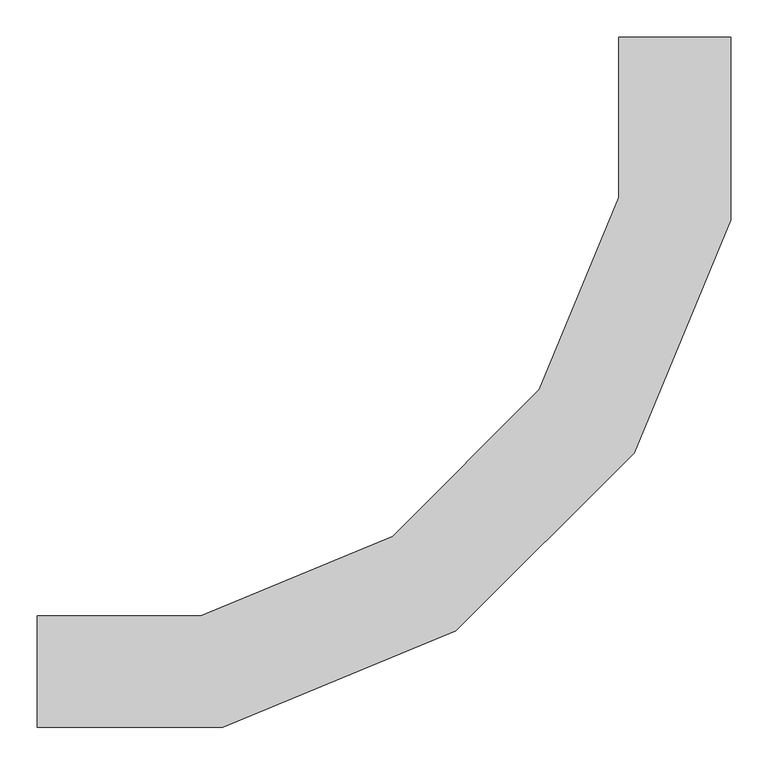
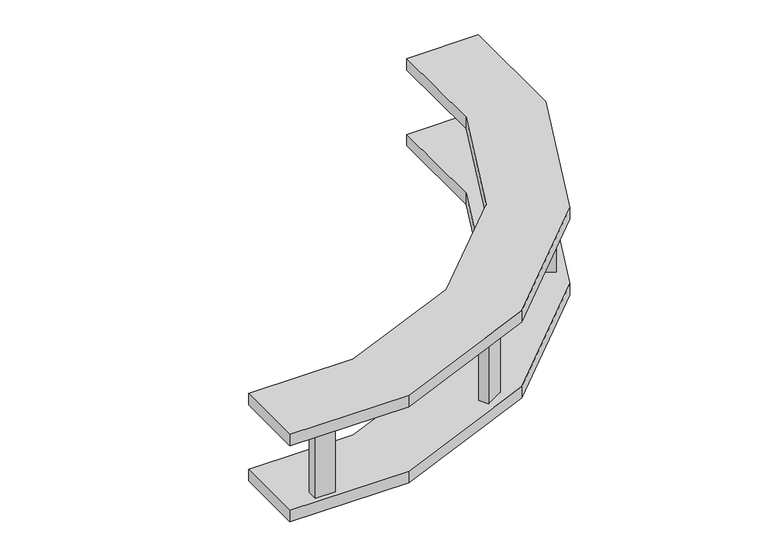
"""IFC4 building model written with IfcOpenShell, lengths in millimetres: cable carrier fitting geometry, Legrand_CableLadder_Swifts_Emerald_OutsideRiser-13 : Hot Dip Galvanised (after manufacture)."""

from ifc_helpers import new_model, si_unit, frame, origin, place, context, project, spatial, polyline, outline, extrude, source, transform, mapped, element, save


def cable_carrier_fitting_db6fad4b(model_context):
    return source(origin(), model_context, "Body", "SweptSolid", [
        extrude(outline(polyline([(-383.9365335, 55.2921816), (-347.5634665, 76.2921816), (-337.0634665, 58.1056481), (-373.4365335, 37.1056481), (-383.9365335, 55.2921816)])), frame((0.0, 0.0, -71.5), z_axis=(0.0, 0.0, 1.0), x_axis=(1.0, 0.0, 0.0)), (0.0, 0.0, 1.0), 143.0),
        extrude(outline(polyline([(-76.2921816, 347.5634665), (-55.2921816, 383.9365335), (-37.1056481, 373.4365335), (-58.1056481, 337.0634665), (-76.2921816, 347.5634665)])), frame((0.0, 0.0, -71.5), z_axis=(0.0, 0.0, 1.0), x_axis=(1.0, 0.0, 0.0)), (0.0, 0.0, 1.0), 143.0),
        extrude(outline(polyline([(-796.5, -44.0), (-754.5, -44.0), (-754.5, -65.0), (-796.5, -65.0), (-796.5, -44.0)])), frame((0.0, 0.0, -71.5), z_axis=(0.0, 0.0, 1.0), x_axis=(1.0, 0.0, 0.0)), (0.0, 0.0, 1.0), 143.0),
        extrude(outline(polyline([(44.0, 754.5), (44.0, 796.5), (65.0, 796.5), (65.0, 754.5), (44.0, 754.5)])), frame((0.0, 0.0, -71.5), z_axis=(0.0, 0.0, 1.0), x_axis=(1.0, 0.0, 0.0)), (0.0, 0.0, 1.0), 143.0),
        extrude(outline(polyline([(-606.3250315, -75.0), (-855.5, -75.0), (-855.5, 75.0), (-636.1618867, 75.0), (-378.6986246, 181.644775), (-181.644775, 378.6986246), (-75.0, 636.1618867), (-75.0, 851.7), (75.0, 851.7), (75.0, 606.3250315), (-54.4809152, 293.73045), (-293.73045, 54.4809152), (-606.3250315, -75.0)])), frame((0.0, 0.0, -97.0), z_axis=(0.0, 0.0, 1.0), x_axis=(1.0, 0.0, 0.0)), (0.0, 0.0, 1.0), 25.5),
        extrude(outline(polyline([(-855.5, -75.0), (-855.5, 75.0), (-636.1618867, 75.0), (-378.6986246, 181.644775), (-181.644775, 378.6986246), (-75.0, 636.1618867), (-75.0, 851.7), (75.0, 851.7), (75.0, 606.3250315), (-54.4809152, 293.73045), (-293.73045, 54.4809152), (-606.3250315, -75.0), (-855.5, -75.0)])), frame((0.0, 0.0, 71.5), z_axis=(0.0, 0.0, 1.0), x_axis=(1.0, 0.0, 0.0)), (0.0, 0.0, 1.0), 25.5),
    ])


if __name__ == "__main__":
    model = new_model("IFC4")
    model_context = context("Model", 3, world=origin())
    ifc_project = project(units=[si_unit("LENGTHUNIT", "METRE", prefix="MILLI")], contexts=[model_context])
    site = spatial("IfcSite", under=ifc_project)
    building = spatial("IfcBuilding", under=site)
    placement = place(None, origin())
    cable_carrier_fitting_shape = cable_carrier_fitting_db6fad4b(model_context)
    element("IfcCableCarrierFitting", 1, ObjectType="Legrand_CableLadder_Swifts_Emerald_OutsideRiser-13 : Hot Dip Galvanised (after manufacture)", at=placement, inside=building, context=model_context, shape_type="MappedRepresentation", body=[
        mapped(cable_carrier_fitting_shape, transform((0.0, 0.0, 0.0), x_axis=(1.0, 0.0, 0.0), y_axis=(0.0, 1.0, 0.0), z_axis=(0.0, 0.0, 1.0))),
    ])
    save(model, "model.ifc")
